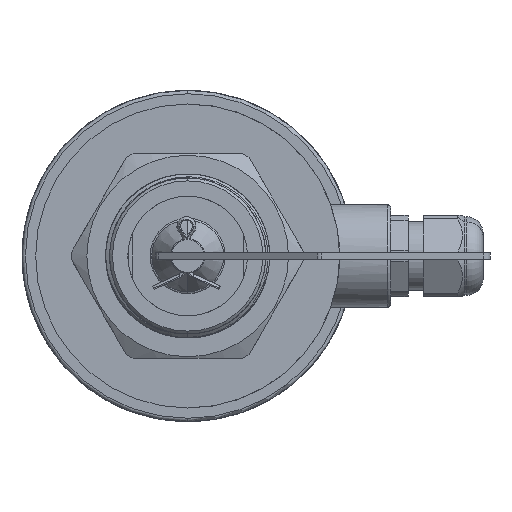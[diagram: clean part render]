
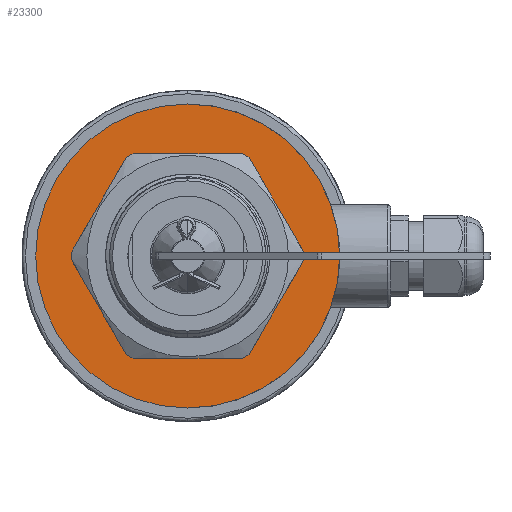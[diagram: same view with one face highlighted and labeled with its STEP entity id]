
A CAD part, front view. The second image highlights one B-rep face of the part: STEP entity #23300.
In plain terms, the highlighted planar face has unit normal (0, -1, 0).
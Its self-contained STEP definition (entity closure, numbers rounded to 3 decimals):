
#281 = CIRCLE ( 'NONE', #15456, 18. ) ;
#1473 = DIRECTION ( 'NONE',  ( 0., 0., 1. ) ) ;
#1503 = DIRECTION ( 'NONE',  ( 0., 0., 1. ) ) ;
#1559 = ORIENTED_EDGE ( 'NONE', *, *, #15202, .F. ) ;
#1948 = CARTESIAN_POINT ( 'NONE',  ( 0., 281.2, -18. ) ) ;
#3024 = ORIENTED_EDGE ( 'NONE', *, *, #16752, .T. ) ;
#3153 = DIRECTION ( 'NONE',  ( 0., 1., 0. ) ) ;
#3429 = CARTESIAN_POINT ( 'NONE',  ( 0., 281.2, 18. ) ) ;
#3529 = PLANE ( 'NONE',  #23929 ) ;
#3888 = DIRECTION ( 'NONE',  ( 0., 0., 1. ) ) ;
#4301 = VERTEX_POINT ( 'NONE', #1948 ) ;
#6013 = EDGE_LOOP ( 'NONE', ( #1559, #6893 ) ) ;
#6893 = ORIENTED_EDGE ( 'NONE', *, *, #6924, .F. ) ;
#6924 = EDGE_CURVE ( 'NONE', #6927, #17662, #21042, .T. ) ;
#6927 = VERTEX_POINT ( 'NONE', #18523 ) ;
#8074 = CARTESIAN_POINT ( 'NONE',  ( 0., 281.2, 0. ) ) ;
#9350 = AXIS2_PLACEMENT_3D ( 'NONE', #8074, #16347, #24626 ) ;
#9563 = CARTESIAN_POINT ( 'NONE',  ( 0., 281.2, 44.5 ) ) ;
#11438 = DIRECTION ( 'NONE',  ( 0., 0., 1. ) ) ;
#11788 = CARTESIAN_POINT ( 'NONE',  ( 0., 281.2, 0. ) ) ;
#11814 = CARTESIAN_POINT ( 'NONE',  ( 44.5, 281.2, 0. ) ) ;
#13854 = FACE_OUTER_BOUND ( 'NONE', #6013, .T. ) ;
#14210 = CARTESIAN_POINT ( 'NONE',  ( 0., 281.2, 0. ) ) ;
#15202 = EDGE_CURVE ( 'NONE', #17662, #6927, #17201, .T. ) ;
#15456 = AXIS2_PLACEMENT_3D ( 'NONE', #11788, #20078, #1473 ) ;
#16347 = DIRECTION ( 'NONE',  ( 0., 1., 0. ) ) ;
#16752 = EDGE_CURVE ( 'NONE', #24324, #4301, #281, .T. ) ;
#17201 = CIRCLE ( 'NONE', #20691, 44.5 ) ;
#17509 = CIRCLE ( 'NONE', #20986, 18. ) ;
#17662 = VERTEX_POINT ( 'NONE', #9563 ) ;
#18523 = CARTESIAN_POINT ( 'NONE',  ( 0., 281.2, -44.5 ) ) ;
#20078 = DIRECTION ( 'NONE',  ( 0., 1., 0. ) ) ;
#20107 = DIRECTION ( 'NONE',  ( 0., 1., 0. ) ) ;
#20691 = AXIS2_PLACEMENT_3D ( 'NONE', #14210, #22496, #3888 ) ;
#20986 = AXIS2_PLACEMENT_3D ( 'NONE', #21771, #3153, #11438 ) ;
#21042 = CIRCLE ( 'NONE', #9350, 44.5 ) ;
#21771 = CARTESIAN_POINT ( 'NONE',  ( 0., 281.2, 0. ) ) ;
#22147 = FACE_BOUND ( 'NONE', #24619, .T. ) ;
#22496 = DIRECTION ( 'NONE',  ( 0., 1., 0. ) ) ;
#23300 = ADVANCED_FACE ( 'NONE', ( #13854, #22147 ), #3529, .F. ) ;
#23929 = AXIS2_PLACEMENT_3D ( 'NONE', #11814, #20107, #1503 ) ;
#24324 = VERTEX_POINT ( 'NONE', #3429 ) ;
#24619 = EDGE_LOOP ( 'NONE', ( #3024, #26477 ) ) ;
#24626 = DIRECTION ( 'NONE',  ( 0., 0., 1. ) ) ;
#26477 = ORIENTED_EDGE ( 'NONE', *, *, #26828, .T. ) ;
#26828 = EDGE_CURVE ( 'NONE', #4301, #24324, #17509, .T. ) ;
